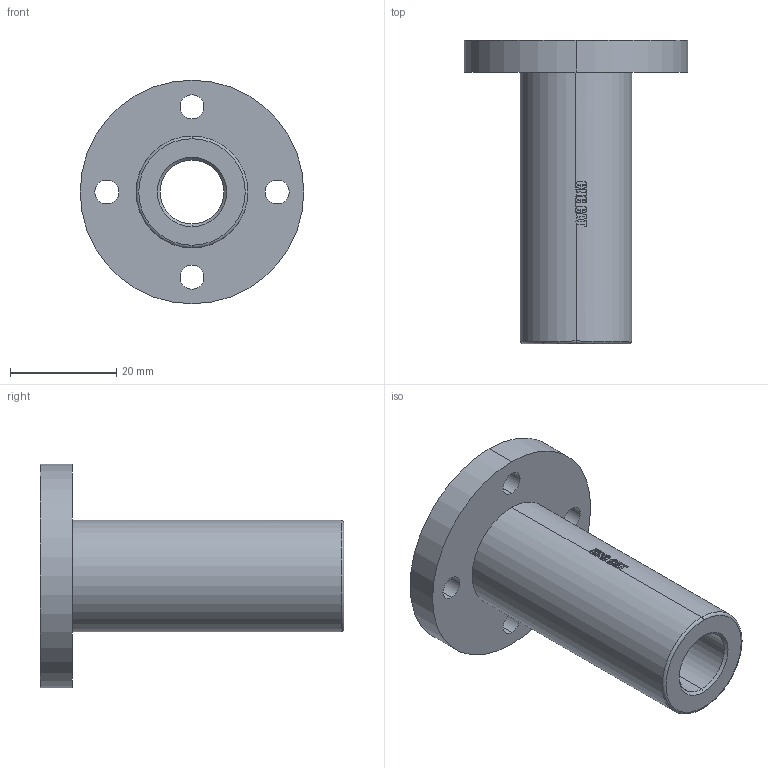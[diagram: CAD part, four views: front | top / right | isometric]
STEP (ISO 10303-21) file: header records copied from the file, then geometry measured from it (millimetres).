
FILE_DESCRIPTION (( 'STEP AP203' ), '1' );
FILE_NAME ('LMF12LUU.STEP', '2017-08-10T13:15:16', ( '' ), ( '' ), 'SwSTEP 2.0', 'SolidWorks 2017', '' );
FILE_SCHEMA (( 'CONFIG_CONTROL_DESIGN' ));
Length unit declared in the file: millimetre
Products named in the file (1): LMF12LUU
Bounding box: 42 x 57 x 42 mm (x, y, z)
Volume: 19137.2 mm3; surface area: 9052.1 mm2
Topology: 1 solids, 1 shells, 110 faces, 304 edges, 198 vertices
Faces by surface type: plane 48, bspline 32, cylinder 26, cone 2, torus 2
Entity records: 7279 total; most frequent: CARTESIAN_POINT 4643, ORIENTED_EDGE 608, DIRECTION 421, EDGE_CURVE 304, VERTEX_POINT 198, AXIS2_PLACEMENT_3D 165, B_SPLINE_CURVE_WITH_KNOTS 127, EDGE_LOOP 122
